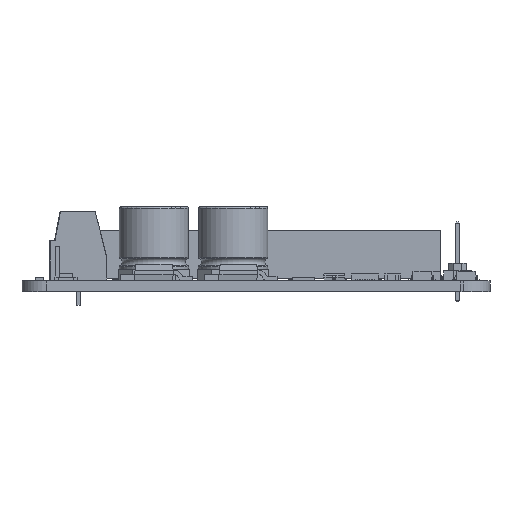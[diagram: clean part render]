
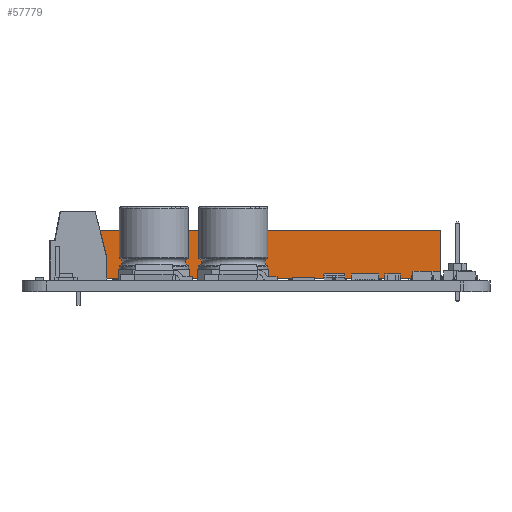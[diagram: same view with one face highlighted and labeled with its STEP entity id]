
A CAD part, front view. The second image highlights one B-rep face of the part: STEP entity #57779.
In plain terms, the highlighted planar face has unit normal (0, -1, 0).
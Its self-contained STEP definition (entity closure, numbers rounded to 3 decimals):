
#4036=PLANE('',#62006);
#6907=FACE_OUTER_BOUND('',#10602,.T.);
#10602=EDGE_LOOP('',(#50613,#50614,#50615,#50616));
#16189=LINE('',#89812,#22902);
#16190=LINE('',#89816,#22903);
#16193=LINE('',#89820,#22906);
#16194=LINE('',#89822,#22907);
#22902=VECTOR('',#74075,1000.);
#22903=VECTOR('',#74078,1000.);
#22906=VECTOR('',#74083,1000.);
#22907=VECTOR('',#74086,1000.);
#29773=VERTEX_POINT('',#89808);
#29774=VERTEX_POINT('',#89810);
#29775=VERTEX_POINT('',#89814);
#29776=VERTEX_POINT('',#89815);
#36949=EDGE_CURVE('',#29774,#29773,#16189,.T.);
#36950=EDGE_CURVE('',#29775,#29776,#16190,.T.);
#36953=EDGE_CURVE('',#29776,#29773,#16193,.T.);
#36954=EDGE_CURVE('',#29775,#29774,#16194,.T.);
#50613=ORIENTED_EDGE('',*,*,#36950,.T.);
#50614=ORIENTED_EDGE('',*,*,#36953,.T.);
#50615=ORIENTED_EDGE('',*,*,#36949,.F.);
#50616=ORIENTED_EDGE('',*,*,#36954,.F.);
#57779=ADVANCED_FACE('',(#6907),#4036,.F.);
#62006=AXIS2_PLACEMENT_3D('',#89823,#74087,#74088);
#74075=DIRECTION('',(1.,0.,0.));
#74078=DIRECTION('',(1.,0.,0.));
#74083=DIRECTION('',(0.,0.,1.));
#74086=DIRECTION('',(0.,0.,1.));
#74087=DIRECTION('center_axis',(0.,1.,0.));
#74088=DIRECTION('ref_axis',(1.,0.,0.));
#89808=CARTESIAN_POINT('',(25.4,-2.54,7.3));
#89810=CARTESIAN_POINT('',(-25.4,-2.54,7.3));
#89812=CARTESIAN_POINT('',(-25.4,-2.54,7.3));
#89814=CARTESIAN_POINT('',(-25.4,-2.54,0.3));
#89815=CARTESIAN_POINT('',(25.4,-2.54,0.3));
#89816=CARTESIAN_POINT('',(-25.4,-2.54,0.3));
#89820=CARTESIAN_POINT('',(25.4,-2.54,0.3));
#89822=CARTESIAN_POINT('',(-25.4,-2.54,0.3));
#89823=CARTESIAN_POINT('Origin',(-25.4,-2.54,0.3));
